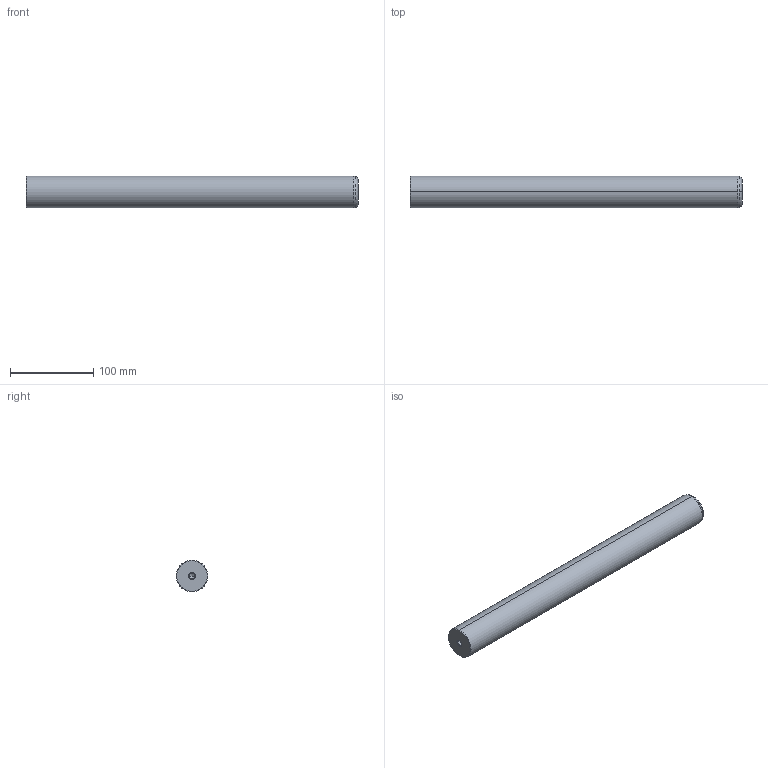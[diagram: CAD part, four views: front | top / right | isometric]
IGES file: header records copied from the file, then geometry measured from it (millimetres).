
Start section: START RECORD GO HERE.
Global section: file name: 720-38x400.igs; native system: DASSAULT SYSTEMES CATIA V5 R20 - www.3ds.com; preprocessor: CATIA Version 5 Release 20 ; author: Utente; organization: NB04-ASUS; date: 20210101.130042; units: millimetre
Bounding box: 400 x 38 x 38 mm (x, y, z)
Surface area: 50706.9 mm2 (no closed solid volume)
Topology: 0 solids, 0 shells, 22 faces, 120 edges, 116 vertices
Faces by surface type: revolution 20, plane 2
